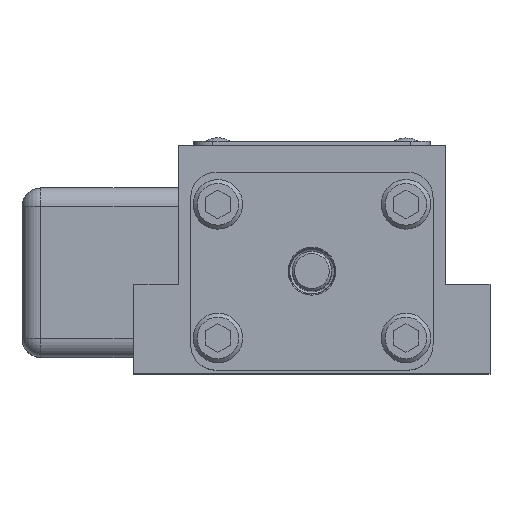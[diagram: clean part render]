
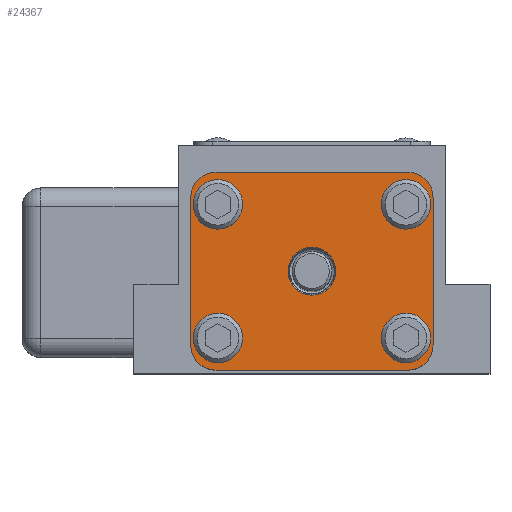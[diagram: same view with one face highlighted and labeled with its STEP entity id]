
A CAD part, top view. The second image highlights one B-rep face of the part: STEP entity #24367.
In plain terms, the highlighted planar face has unit normal (0, 0, 1).
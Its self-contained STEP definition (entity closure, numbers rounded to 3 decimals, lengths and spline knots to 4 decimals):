
#1342=FACE_BOUND('',#6282,.T.);
#1343=FACE_BOUND('',#6283,.T.);
#1344=FACE_BOUND('',#6284,.T.);
#1345=FACE_BOUND('',#6285,.T.);
#1346=FACE_BOUND('',#6286,.T.);
#1609=LINE('',#37479,#3220);
#1610=LINE('',#37483,#3221);
#1611=LINE('',#37487,#3222);
#1612=LINE('',#37490,#3223);
#3220=VECTOR('',#29085,1.);
#3221=VECTOR('',#29088,1.);
#3222=VECTOR('',#29091,1.);
#3223=VECTOR('',#29094,1.);
#4816=FACE_OUTER_BOUND('',#6281,.T.);
#6281=EDGE_LOOP('',(#15601,#15602,#15603,#15604,#15605,#15606,#15607,#15608));
#6282=EDGE_LOOP('',(#15609));
#6283=EDGE_LOOP('',(#15610));
#6284=EDGE_LOOP('',(#15611));
#6285=EDGE_LOOP('',(#15612));
#6286=EDGE_LOOP('',(#15613));
#7925=CIRCLE('',#25948,0.4064);
#7926=CIRCLE('',#25949,0.4064);
#7927=CIRCLE('',#25950,0.4064);
#7928=CIRCLE('',#25951,0.4064);
#7929=CIRCLE('',#25952,0.3969);
#7930=CIRCLE('',#25953,0.3969);
#7931=CIRCLE('',#25954,0.3969);
#7932=CIRCLE('',#25955,0.3969);
#7933=CIRCLE('',#25956,0.3835);
#9489=VERTEX_POINT('',#37475);
#9490=VERTEX_POINT('',#37476);
#9491=VERTEX_POINT('',#37478);
#9492=VERTEX_POINT('',#37480);
#9493=VERTEX_POINT('',#37482);
#9494=VERTEX_POINT('',#37484);
#9495=VERTEX_POINT('',#37486);
#9496=VERTEX_POINT('',#37488);
#9497=VERTEX_POINT('',#37491);
#9498=VERTEX_POINT('',#37493);
#9499=VERTEX_POINT('',#37495);
#9500=VERTEX_POINT('',#37497);
#9501=VERTEX_POINT('',#37499);
#11863=EDGE_CURVE('',#9489,#9490,#7925,.T.);
#11864=EDGE_CURVE('',#9491,#9489,#1609,.T.);
#11865=EDGE_CURVE('',#9492,#9491,#7926,.T.);
#11866=EDGE_CURVE('',#9493,#9492,#1610,.T.);
#11867=EDGE_CURVE('',#9494,#9493,#7927,.T.);
#11868=EDGE_CURVE('',#9495,#9494,#1611,.T.);
#11869=EDGE_CURVE('',#9496,#9495,#7928,.T.);
#11870=EDGE_CURVE('',#9490,#9496,#1612,.T.);
#11871=EDGE_CURVE('',#9497,#9497,#7929,.T.);
#11872=EDGE_CURVE('',#9498,#9498,#7930,.T.);
#11873=EDGE_CURVE('',#9499,#9499,#7931,.T.);
#11874=EDGE_CURVE('',#9500,#9500,#7932,.T.);
#11875=EDGE_CURVE('',#9501,#9501,#7933,.T.);
#15601=ORIENTED_EDGE('',*,*,#11863,.F.);
#15602=ORIENTED_EDGE('',*,*,#11864,.F.);
#15603=ORIENTED_EDGE('',*,*,#11865,.F.);
#15604=ORIENTED_EDGE('',*,*,#11866,.F.);
#15605=ORIENTED_EDGE('',*,*,#11867,.F.);
#15606=ORIENTED_EDGE('',*,*,#11868,.F.);
#15607=ORIENTED_EDGE('',*,*,#11869,.F.);
#15608=ORIENTED_EDGE('',*,*,#11870,.F.);
#15609=ORIENTED_EDGE('',*,*,#11871,.T.);
#15610=ORIENTED_EDGE('',*,*,#11872,.T.);
#15611=ORIENTED_EDGE('',*,*,#11873,.T.);
#15612=ORIENTED_EDGE('',*,*,#11874,.T.);
#15613=ORIENTED_EDGE('',*,*,#11875,.T.);
#22279=PLANE('',#25947);
#24367=ADVANCED_FACE('',(#4816,#1342,#1343,#1344,#1345,#1346),#22279,.T.);
#25947=AXIS2_PLACEMENT_3D('',#37474,#29081,#29082);
#25948=AXIS2_PLACEMENT_3D('',#37477,#29083,#29084);
#25949=AXIS2_PLACEMENT_3D('',#37481,#29086,#29087);
#25950=AXIS2_PLACEMENT_3D('',#37485,#29089,#29090);
#25951=AXIS2_PLACEMENT_3D('',#37489,#29092,#29093);
#25952=AXIS2_PLACEMENT_3D('',#37492,#29095,#29096);
#25953=AXIS2_PLACEMENT_3D('',#37494,#29097,#29098);
#25954=AXIS2_PLACEMENT_3D('',#37496,#29099,#29100);
#25955=AXIS2_PLACEMENT_3D('',#37498,#29101,#29102);
#25956=AXIS2_PLACEMENT_3D('',#37500,#29103,#29104);
#29081=DIRECTION('center_axis',(0.,0.,
1.));
#29082=DIRECTION('ref_axis',(-1.,0.,0.));
#29083=DIRECTION('center_axis',(0.,0.,
-1.));
#29084=DIRECTION('ref_axis',(0.707,0.707,0.));
#29085=DIRECTION('',(1.,0.,0.));
#29086=DIRECTION('center_axis',(0.,0.,
-1.));
#29087=DIRECTION('ref_axis',(-0.707,0.707,0.));
#29088=DIRECTION('',(0.,1.,0.));
#29089=DIRECTION('center_axis',(0.,0.,
-1.));
#29090=DIRECTION('ref_axis',(-0.707,-0.707,0.));
#29091=DIRECTION('',(-1.,0.,0.));
#29092=DIRECTION('center_axis',(0.,0.,
-1.));
#29093=DIRECTION('ref_axis',(0.707,-0.707,0.));
#29094=DIRECTION('',(0.,-1.,0.));
#29095=DIRECTION('center_axis',(0.,0.,
-1.));
#29096=DIRECTION('ref_axis',(-1.,0.,0.));
#29097=DIRECTION('center_axis',(0.,0.,
-1.));
#29098=DIRECTION('ref_axis',(-1.,0.,0.));
#29099=DIRECTION('center_axis',(0.,0.,
-1.));
#29100=DIRECTION('ref_axis',(-1.,0.,0.));
#29101=DIRECTION('center_axis',(0.,0.,
-1.));
#29102=DIRECTION('ref_axis',(-1.,0.,0.));
#29103=DIRECTION('center_axis',(0.,0.,
-1.));
#29104=DIRECTION('ref_axis',(-1.,0.,0.));
#37474=CARTESIAN_POINT('Origin',(0.,0.,
5.7239));
#37475=CARTESIAN_POINT('',(1.538,1.5875,5.7239));
#37476=CARTESIAN_POINT('',(1.9444,1.1811,5.7239));
#37477=CARTESIAN_POINT('Origin',(1.538,1.1811,5.7239));
#37478=CARTESIAN_POINT('',(-1.538,1.5875,5.7239));
#37479=CARTESIAN_POINT('',(-1.9444,1.5875,5.7239));
#37480=CARTESIAN_POINT('',(-1.9444,1.1811,5.7239));
#37481=CARTESIAN_POINT('Origin',(-1.538,1.1811,5.7239));
#37482=CARTESIAN_POINT('',(-1.9444,-1.1811,5.7239));
#37483=CARTESIAN_POINT('',(-1.9444,-1.5875,5.7239));
#37484=CARTESIAN_POINT('',(-1.538,-1.5875,5.7239));
#37485=CARTESIAN_POINT('Origin',(-1.538,-1.1811,5.7239));
#37486=CARTESIAN_POINT('',(1.538,-1.5875,5.7239));
#37487=CARTESIAN_POINT('',(1.9444,-1.5875,5.7239));
#37488=CARTESIAN_POINT('',(1.9444,-1.1811,5.7239));
#37489=CARTESIAN_POINT('Origin',(1.538,-1.1811,5.7239));
#37490=CARTESIAN_POINT('',(1.9444,1.5875,5.7239));
#37491=CARTESIAN_POINT('',(-1.1119,1.0719,5.7239));
#37492=CARTESIAN_POINT('Origin',(-1.5088,1.0719,5.7239));
#37493=CARTESIAN_POINT('',(1.9056,1.0719,5.7239));
#37494=CARTESIAN_POINT('Origin',(1.5088,1.0719,5.7239));
#37495=CARTESIAN_POINT('',(1.9056,-1.0719,5.7239));
#37496=CARTESIAN_POINT('Origin',(1.5088,-1.0719,5.7239));
#37497=CARTESIAN_POINT('',(-1.1119,-1.0719,5.7239));
#37498=CARTESIAN_POINT('Origin',(-1.5088,-1.0719,5.7239));
#37499=CARTESIAN_POINT('',(0.3835,0.,5.7239));
#37500=CARTESIAN_POINT('Origin',(0.,0.,
5.7239));
